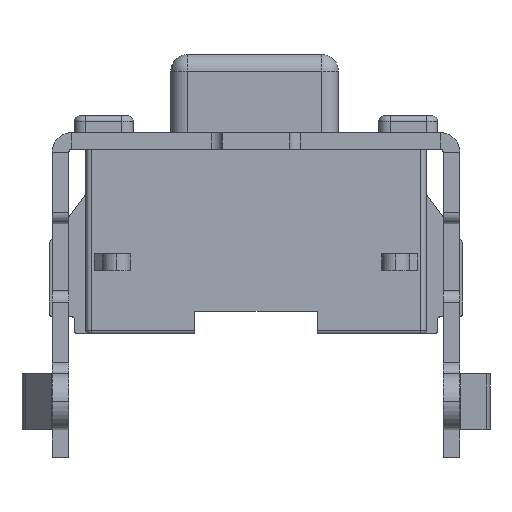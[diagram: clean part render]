
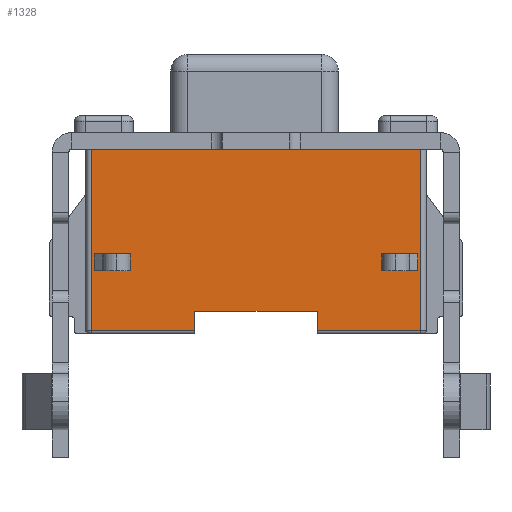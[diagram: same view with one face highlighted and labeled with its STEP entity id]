
A CAD part, front view. The second image highlights one B-rep face of the part: STEP entity #1328.
In plain terms, the highlighted planar face has unit normal (0, -1, 0).
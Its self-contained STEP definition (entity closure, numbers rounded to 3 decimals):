
#55 = DIRECTION ( 'NONE',  ( 0., 0., -1. ) ) ;
#99 = VECTOR ( 'NONE', #8822, 1000. ) ;
#220 = EDGE_CURVE ( 'NONE', #4420, #9402, #2088, .T. ) ;
#342 = VECTOR ( 'NONE', #4604, 1000. ) ;
#714 = VECTOR ( 'NONE', #10117, 1000. ) ;
#851 = CARTESIAN_POINT ( 'NONE',  ( 2.25, -1.75, -2.17 ) ) ;
#948 = CARTESIAN_POINT ( 'NONE',  ( 0., -1.75, 0. ) ) ;
#965 = VECTOR ( 'NONE', #1829, 1000. ) ;
#1172 = CARTESIAN_POINT ( 'NONE',  ( 2.95, -1.75, 0. ) ) ;
#1180 = DIRECTION ( 'NONE',  ( 1., 0., 0. ) ) ;
#1321 = DIRECTION ( 'NONE',  ( 1., 0., 0. ) ) ;
#1328 = ADVANCED_FACE ( 'NONE', ( #6480, #8407, #4293 ), #3375, .F. ) ;
#1351 = CARTESIAN_POINT ( 'NONE',  ( 0., -1.75, -3.25 ) ) ;
#1466 = CARTESIAN_POINT ( 'NONE',  ( 0., -1.75, -3.25 ) ) ;
#1550 = ORIENTED_EDGE ( 'NONE', *, *, #3447, .F. ) ;
#1774 = DIRECTION ( 'NONE',  ( 0., 0., 1. ) ) ;
#1824 = VECTOR ( 'NONE', #6109, 1000. ) ;
#1829 = DIRECTION ( 'NONE',  ( 0., 0., -1. ) ) ;
#1964 = LINE ( 'NONE', #9909, #10393 ) ;
#2035 = CARTESIAN_POINT ( 'NONE',  ( -2.9, -1.75, -2.17 ) ) ;
#2072 = ORIENTED_EDGE ( 'NONE', *, *, #3028, .T. ) ;
#2081 = LINE ( 'NONE', #8212, #2978 ) ;
#2088 = LINE ( 'NONE', #851, #9514 ) ;
#2179 = EDGE_CURVE ( 'NONE', #4215, #2912, #9310, .T. ) ;
#2183 = EDGE_CURVE ( 'NONE', #3926, #5724, #7160, .T. ) ;
#2387 = EDGE_CURVE ( 'NONE', #7926, #8547, #4440, .T. ) ;
#2586 = ORIENTED_EDGE ( 'NONE', *, *, #9355, .F. ) ;
#2804 = EDGE_CURVE ( 'NONE', #9402, #5724, #5054, .T. ) ;
#2912 = VERTEX_POINT ( 'NONE', #3709 ) ;
#2913 = VERTEX_POINT ( 'NONE', #8620 ) ;
#2960 = VERTEX_POINT ( 'NONE', #4613 ) ;
#2978 = VECTOR ( 'NONE', #55, 1000. ) ;
#3028 = EDGE_CURVE ( 'NONE', #2913, #5687, #8104, .T. ) ;
#3171 = CARTESIAN_POINT ( 'NONE',  ( -2.9, -1.75, -1.87 ) ) ;
#3232 = VERTEX_POINT ( 'NONE', #3466 ) ;
#3375 = PLANE ( 'NONE',  #6242 ) ;
#3432 = VECTOR ( 'NONE', #9647, 1000. ) ;
#3447 = EDGE_CURVE ( 'NONE', #9936, #4093, #3707, .T. ) ;
#3466 = CARTESIAN_POINT ( 'NONE',  ( -1.1, -1.75, -2.9 ) ) ;
#3487 = CARTESIAN_POINT ( 'NONE',  ( 2.95, -1.75, -3.25 ) ) ;
#3505 = CARTESIAN_POINT ( 'NONE',  ( 2.25, -1.75, -1.87 ) ) ;
#3565 = CARTESIAN_POINT ( 'NONE',  ( 2.25, -1.75, -2.17 ) ) ;
#3632 = DIRECTION ( 'NONE',  ( 0., 0., 1. ) ) ;
#3707 = LINE ( 'NONE', #9494, #5650 ) ;
#3709 = CARTESIAN_POINT ( 'NONE',  ( -2.95, -1.75, -3.25 ) ) ;
#3763 = ORIENTED_EDGE ( 'NONE', *, *, #7898, .T. ) ;
#3765 = LINE ( 'NONE', #5292, #10041 ) ;
#3926 = VERTEX_POINT ( 'NONE', #3505 ) ;
#4074 = ORIENTED_EDGE ( 'NONE', *, *, #2387, .F. ) ;
#4093 = VERTEX_POINT ( 'NONE', #7832 ) ;
#4190 = EDGE_LOOP ( 'NONE', ( #1550, #6822, #5174, #7496, #2586, #6639, #2072, #3763 ) ) ;
#4215 = VERTEX_POINT ( 'NONE', #4635 ) ;
#4283 = ORIENTED_EDGE ( 'NONE', *, *, #2183, .T. ) ;
#4293 = FACE_OUTER_BOUND ( 'NONE', #4190, .T. ) ;
#4351 = DIRECTION ( 'NONE',  ( 0., 0., -1. ) ) ;
#4420 = VERTEX_POINT ( 'NONE', #9832 ) ;
#4440 = LINE ( 'NONE', #7992, #99 ) ;
#4604 = DIRECTION ( 'NONE',  ( 0., 0., 1. ) ) ;
#4613 = CARTESIAN_POINT ( 'NONE',  ( -2.25, -1.75, -1.87 ) ) ;
#4635 = CARTESIAN_POINT ( 'NONE',  ( -1.1, -1.75, -3.25 ) ) ;
#4772 = ORIENTED_EDGE ( 'NONE', *, *, #5193, .F. ) ;
#4861 = VERTEX_POINT ( 'NONE', #7323 ) ;
#4917 = EDGE_LOOP ( 'NONE', ( #9056, #9711, #9877, #4074 ) ) ;
#4956 = VECTOR ( 'NONE', #7091, 1000. ) ;
#5054 = LINE ( 'NONE', #6889, #714 ) ;
#5077 = CARTESIAN_POINT ( 'NONE',  ( 2.9, -1.75, -2.17 ) ) ;
#5174 = ORIENTED_EDGE ( 'NONE', *, *, #2179, .F. ) ;
#5193 = EDGE_CURVE ( 'NONE', #3926, #4420, #6427, .T. ) ;
#5292 = CARTESIAN_POINT ( 'NONE',  ( 2.25, -1.75, -1.87 ) ) ;
#5451 = CARTESIAN_POINT ( 'NONE',  ( -2.25, -1.75, -2.17 ) ) ;
#5468 = VERTEX_POINT ( 'NONE', #3171 ) ;
#5650 = VECTOR ( 'NONE', #6277, 1000. ) ;
#5687 = VERTEX_POINT ( 'NONE', #3487 ) ;
#5724 = VERTEX_POINT ( 'NONE', #9238 ) ;
#5861 = LINE ( 'NONE', #7209, #3432 ) ;
#5911 = VECTOR ( 'NONE', #8841, 1000. ) ;
#6109 = DIRECTION ( 'NONE',  ( 0., 0., 1. ) ) ;
#6162 = VECTOR ( 'NONE', #3632, 1000. ) ;
#6242 = AXIS2_PLACEMENT_3D ( 'NONE', #948, #6682, #1774 ) ;
#6277 = DIRECTION ( 'NONE',  ( 1., 0., 0. ) ) ;
#6388 = ORIENTED_EDGE ( 'NONE', *, *, #2804, .F. ) ;
#6427 = LINE ( 'NONE', #3565, #10524 ) ;
#6480 = FACE_BOUND ( 'NONE', #8207, .T. ) ;
#6639 = ORIENTED_EDGE ( 'NONE', *, *, #8063, .T. ) ;
#6678 = DIRECTION ( 'NONE',  ( -1., 0., 0. ) ) ;
#6682 = DIRECTION ( 'NONE',  ( 0., 1., 0. ) ) ;
#6822 = ORIENTED_EDGE ( 'NONE', *, *, #7914, .F. ) ;
#6889 = CARTESIAN_POINT ( 'NONE',  ( 2.9, -1.75, -2.17 ) ) ;
#6902 = VECTOR ( 'NONE', #1321, 1000. ) ;
#6998 = EDGE_CURVE ( 'NONE', #3232, #4215, #9659, .T. ) ;
#7091 = DIRECTION ( 'NONE',  ( -1., 0., 0. ) ) ;
#7160 = LINE ( 'NONE', #10308, #6902 ) ;
#7209 = CARTESIAN_POINT ( 'NONE',  ( 1.1, -1.75, -2.9 ) ) ;
#7323 = CARTESIAN_POINT ( 'NONE',  ( 1.1, -1.75, -2.9 ) ) ;
#7496 = ORIENTED_EDGE ( 'NONE', *, *, #6998, .F. ) ;
#7739 = CARTESIAN_POINT ( 'NONE',  ( -2.95, -1.75, 0. ) ) ;
#7832 = CARTESIAN_POINT ( 'NONE',  ( 2.95, -1.75, 0. ) ) ;
#7898 = EDGE_CURVE ( 'NONE', #5687, #4093, #10523, .T. ) ;
#7914 = EDGE_CURVE ( 'NONE', #2912, #9936, #8362, .T. ) ;
#7926 = VERTEX_POINT ( 'NONE', #2035 ) ;
#7992 = CARTESIAN_POINT ( 'NONE',  ( 2.25, -1.75, -2.17 ) ) ;
#8063 = EDGE_CURVE ( 'NONE', #4861, #2913, #5861, .T. ) ;
#8104 = LINE ( 'NONE', #1466, #5911 ) ;
#8207 = EDGE_LOOP ( 'NONE', ( #9308, #4772, #4283, #6388 ) ) ;
#8212 = CARTESIAN_POINT ( 'NONE',  ( -2.9, -1.75, -2.17 ) ) ;
#8362 = LINE ( 'NONE', #7739, #1824 ) ;
#8407 = FACE_BOUND ( 'NONE', #4917, .T. ) ;
#8542 = EDGE_CURVE ( 'NONE', #8547, #2960, #9066, .T. ) ;
#8547 = VERTEX_POINT ( 'NONE', #5451 ) ;
#8620 = CARTESIAN_POINT ( 'NONE',  ( 1.1, -1.75, -3.25 ) ) ;
#8735 = DIRECTION ( 'NONE',  ( 1., 0., 0. ) ) ;
#8822 = DIRECTION ( 'NONE',  ( 1., 0., 0. ) ) ;
#8841 = DIRECTION ( 'NONE',  ( 1., 0., 0. ) ) ;
#9056 = ORIENTED_EDGE ( 'NONE', *, *, #9300, .F. ) ;
#9066 = LINE ( 'NONE', #10344, #342 ) ;
#9238 = CARTESIAN_POINT ( 'NONE',  ( 2.9, -1.75, -1.87 ) ) ;
#9300 = EDGE_CURVE ( 'NONE', #5468, #7926, #2081, .T. ) ;
#9308 = ORIENTED_EDGE ( 'NONE', *, *, #220, .F. ) ;
#9310 = LINE ( 'NONE', #1351, #4956 ) ;
#9355 = EDGE_CURVE ( 'NONE', #4861, #3232, #1964, .T. ) ;
#9402 = VERTEX_POINT ( 'NONE', #5077 ) ;
#9494 = CARTESIAN_POINT ( 'NONE',  ( 0., -1.75, 0. ) ) ;
#9514 = VECTOR ( 'NONE', #8735, 1000. ) ;
#9647 = DIRECTION ( 'NONE',  ( 0., 0., -1. ) ) ;
#9659 = LINE ( 'NONE', #9981, #965 ) ;
#9711 = ORIENTED_EDGE ( 'NONE', *, *, #10499, .T. ) ;
#9832 = CARTESIAN_POINT ( 'NONE',  ( 2.25, -1.75, -2.17 ) ) ;
#9877 = ORIENTED_EDGE ( 'NONE', *, *, #8542, .F. ) ;
#9909 = CARTESIAN_POINT ( 'NONE',  ( 0., -1.75, -2.9 ) ) ;
#9936 = VERTEX_POINT ( 'NONE', #9970 ) ;
#9970 = CARTESIAN_POINT ( 'NONE',  ( -2.95, -1.75, 0. ) ) ;
#9981 = CARTESIAN_POINT ( 'NONE',  ( -1.1, -1.75, -2.9 ) ) ;
#10041 = VECTOR ( 'NONE', #1180, 1000. ) ;
#10117 = DIRECTION ( 'NONE',  ( 0., 0., 1. ) ) ;
#10308 = CARTESIAN_POINT ( 'NONE',  ( 2.25, -1.75, -1.87 ) ) ;
#10344 = CARTESIAN_POINT ( 'NONE',  ( -2.25, -1.75, -2.17 ) ) ;
#10393 = VECTOR ( 'NONE', #6678, 1000. ) ;
#10499 = EDGE_CURVE ( 'NONE', #5468, #2960, #3765, .T. ) ;
#10524 = VECTOR ( 'NONE', #4351, 1000. ) ;
#10523 = LINE ( 'NONE', #1172, #6162 ) ;
